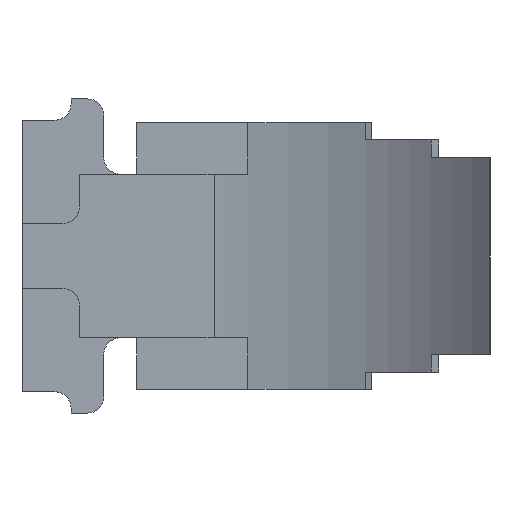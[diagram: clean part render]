
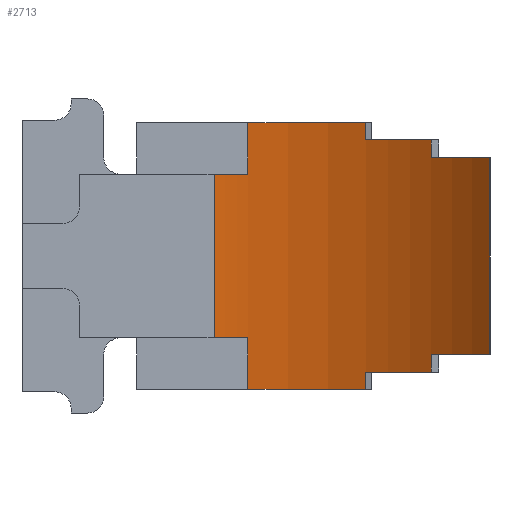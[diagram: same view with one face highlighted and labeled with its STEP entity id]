
A CAD part, left-side view. The second image highlights one B-rep face of the part: STEP entity #2713.
In plain terms, the highlighted cylindrical face has radius 12 mm (diameter 24 mm), a partial arc.
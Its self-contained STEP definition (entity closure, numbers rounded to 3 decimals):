
#1855=CARTESIAN_POINT('',(-7.509,9.052,11.575));
#1856=VERTEX_POINT('',#1855);
#1863=CARTESIAN_POINT('',(-7.596,8.02,11.575));
#1864=VERTEX_POINT('',#1863);
#1865=CARTESIAN_POINT('',(-19.498,9.552,11.575));
#1866=DIRECTION('',(0.0,0.0,-1.));
#1867=DIRECTION('',(0.992,-0.128,0.0));
#1868=AXIS2_PLACEMENT_3D('',#1865,#1866,#1867);
#1869=CIRCLE('',#1868,12.);
#1870=EDGE_CURVE('',#1856,#1864,#1869,.T.);
#2122=CARTESIAN_POINT('',(-7.509,9.052,6.575));
#2123=VERTEX_POINT('',#2122);
#2130=CARTESIAN_POINT('',(-7.509,9.052,11.575));
#2131=DIRECTION('',(0.0,0.0,-1.0));
#2132=VECTOR('',#2131,5.);
#2133=LINE('',#2130,#2132);
#2134=EDGE_CURVE('',#1856,#2123,#2133,.T.);
#2193=CARTESIAN_POINT('',(-7.596,8.02,6.575));
#2194=VERTEX_POINT('',#2193);
#2201=CARTESIAN_POINT('',(-19.498,9.552,6.575));
#2202=DIRECTION('',(0.0,0.0,-1.0));
#2203=DIRECTION('',(0.992,-0.128,0.0));
#2204=AXIS2_PLACEMENT_3D('',#2201,#2202,#2203);
#2205=CIRCLE('',#2204,12.);
#2206=EDGE_CURVE('',#2123,#2194,#2205,.T.);
#2216=CARTESIAN_POINT('',(-11.484,0.62,6.075));
#2217=VERTEX_POINT('',#2216);
#2226=CARTESIAN_POINT('',(-9.848,2.42,6.075));
#2227=VERTEX_POINT('',#2226);
#2228=CARTESIAN_POINT('',(-19.498,9.552,6.075));
#2229=DIRECTION('',(0.0,0.0,-1.));
#2230=DIRECTION('',(0.668,-0.744,0.0));
#2231=AXIS2_PLACEMENT_3D('',#2228,#2229,#2230);
#2232=CIRCLE('',#2231,12.);
#2233=EDGE_CURVE('',#2227,#2217,#2232,.T.);
#2259=CARTESIAN_POINT('',(-9.848,2.42,5.525));
#2260=VERTEX_POINT('',#2259);
#2261=CARTESIAN_POINT('',(-9.848,2.42,5.525));
#2262=DIRECTION('',(0.,0.,1.));
#2263=VECTOR('',#2262,0.55);
#2264=LINE('',#2261,#2263);
#2265=EDGE_CURVE('',#2260,#2227,#2264,.T.);
#2291=CARTESIAN_POINT('',(-8.651,4.42,5.525));
#2292=VERTEX_POINT('',#2291);
#2307=CARTESIAN_POINT('',(-19.498,9.552,5.525));
#2308=DIRECTION('',(0.0,0.0,-1.0));
#2309=DIRECTION('',(0.804,-0.594,0.0));
#2310=AXIS2_PLACEMENT_3D('',#2307,#2308,#2309);
#2311=CIRCLE('',#2310,12.);
#2312=EDGE_CURVE('',#2292,#2260,#2311,.T.);
#2339=CARTESIAN_POINT('',(-8.651,4.42,12.625));
#2340=VERTEX_POINT('',#2339);
#2349=CARTESIAN_POINT('',(-9.848,2.42,12.625));
#2350=VERTEX_POINT('',#2349);
#2351=CARTESIAN_POINT('',(-19.498,9.552,12.625));
#2352=DIRECTION('',(0.0,0.0,1.));
#2353=DIRECTION('',(0.904,-0.428,0.0));
#2354=AXIS2_PLACEMENT_3D('',#2351,#2352,#2353);
#2355=CIRCLE('',#2354,12.);
#2356=EDGE_CURVE('',#2350,#2340,#2355,.T.);
#2382=CARTESIAN_POINT('',(-9.848,2.42,12.075));
#2383=VERTEX_POINT('',#2382);
#2384=CARTESIAN_POINT('',(-9.848,2.42,12.075));
#2385=DIRECTION('',(0.,0.,1.));
#2386=VECTOR('',#2385,0.55);
#2387=LINE('',#2384,#2386);
#2388=EDGE_CURVE('',#2383,#2350,#2387,.T.);
#2422=CARTESIAN_POINT('',(-11.484,0.62,12.075));
#2423=VERTEX_POINT('',#2422);
#2424=CARTESIAN_POINT('',(-19.498,9.552,12.075));
#2425=DIRECTION('',(0.0,0.0,1.0));
#2426=DIRECTION('',(0.804,-0.594,0.0));
#2427=AXIS2_PLACEMENT_3D('',#2424,#2425,#2426);
#2428=CIRCLE('',#2427,12.);
#2429=EDGE_CURVE('',#2423,#2383,#2428,.T.);
#2446=CARTESIAN_POINT('',(-11.484,0.62,6.075));
#2447=DIRECTION('',(0.0,0.0,1.0));
#2448=VECTOR('',#2447,6.);
#2449=LINE('',#2446,#2448);
#2450=EDGE_CURVE('',#2217,#2423,#2449,.T.);
#2542=CARTESIAN_POINT('',(-8.651,4.42,13.15));
#2543=VERTEX_POINT('',#2542);
#2552=CARTESIAN_POINT('',(-8.651,4.42,12.625));
#2553=DIRECTION('',(0.,0.,1.));
#2554=VECTOR('',#2553,0.525);
#2555=LINE('',#2552,#2554);
#2556=EDGE_CURVE('',#2340,#2543,#2555,.T.);
#2604=CARTESIAN_POINT('',(-7.596,8.02,13.15));
#2605=VERTEX_POINT('',#2604);
#2614=CARTESIAN_POINT('',(-7.596,8.02,13.15));
#2615=DIRECTION('',(0.,0.,-1.0));
#2616=VECTOR('',#2615,1.575);
#2617=LINE('',#2614,#2616);
#2618=EDGE_CURVE('',#2605,#1864,#2617,.T.);
#2646=CARTESIAN_POINT('',(-8.651,4.42,5.));
#2647=VERTEX_POINT('',#2646);
#2648=CARTESIAN_POINT('',(-8.651,4.42,5.));
#2649=DIRECTION('',(0.,0.,1.));
#2650=VECTOR('',#2649,0.525);
#2651=LINE('',#2648,#2650);
#2652=EDGE_CURVE('',#2647,#2292,#2651,.T.);
#2671=CARTESIAN_POINT('',(-19.498,9.552,4.9));
#2672=DIRECTION('',(0.0,0.0,1.0));
#2673=DIRECTION('',(-0.426,-0.905,0.0));
#2674=AXIS2_PLACEMENT_3D('',#2671,#2672,#2673);
#2675=CYLINDRICAL_SURFACE('',#2674,12.);
#2676=ORIENTED_EDGE('',*,*,#2312,.T.);
#2677=ORIENTED_EDGE('',*,*,#2265,.T.);
#2678=ORIENTED_EDGE('',*,*,#2233,.T.);
#2679=ORIENTED_EDGE('',*,*,#2450,.T.);
#2680=ORIENTED_EDGE('',*,*,#2429,.T.);
#2681=ORIENTED_EDGE('',*,*,#2388,.T.);
#2682=ORIENTED_EDGE('',*,*,#2356,.T.);
#2683=ORIENTED_EDGE('',*,*,#2556,.T.);
#2684=CARTESIAN_POINT('',(-19.498,9.552,13.15));
#2685=DIRECTION('',(0.0,0.0,-1.));
#2686=DIRECTION('',(0.904,-0.428,0.0));
#2687=AXIS2_PLACEMENT_3D('',#2684,#2685,#2686);
#2688=CIRCLE('',#2687,12.);
#2689=EDGE_CURVE('',#2605,#2543,#2688,.T.);
#2690=ORIENTED_EDGE('',*,*,#2689,.F.);
#2691=ORIENTED_EDGE('',*,*,#2618,.T.);
#2692=ORIENTED_EDGE('',*,*,#1870,.F.);
#2693=ORIENTED_EDGE('',*,*,#2134,.T.);
#2694=ORIENTED_EDGE('',*,*,#2206,.T.);
#2695=CARTESIAN_POINT('',(-7.596,8.02,5.));
#2696=VERTEX_POINT('',#2695);
#2697=CARTESIAN_POINT('',(-7.596,8.02,5.));
#2698=DIRECTION('',(0.,0.,1.0));
#2699=VECTOR('',#2698,1.575);
#2700=LINE('',#2697,#2699);
#2701=EDGE_CURVE('',#2696,#2194,#2700,.T.);
#2702=ORIENTED_EDGE('',*,*,#2701,.F.);
#2703=CARTESIAN_POINT('',(-19.498,9.552,5.0));
#2704=DIRECTION('',(0.0,0.0,1.0));
#2705=DIRECTION('',(0.992,-0.128,0.0));
#2706=AXIS2_PLACEMENT_3D('',#2703,#2704,#2705);
#2707=CIRCLE('',#2706,12.);
#2708=EDGE_CURVE('',#2647,#2696,#2707,.T.);
#2709=ORIENTED_EDGE('',*,*,#2708,.F.);
#2710=ORIENTED_EDGE('',*,*,#2652,.T.);
#2711=EDGE_LOOP('',(#2676,#2677,#2678,#2679,#2680,#2681,#2682,#2683,#2690,#2691,#2692,#2693,#2694,#2702,#2709,#2710));
#2712=FACE_OUTER_BOUND('',#2711,.T.);
#2713=ADVANCED_FACE('',(#2712),#2675,.F.);
